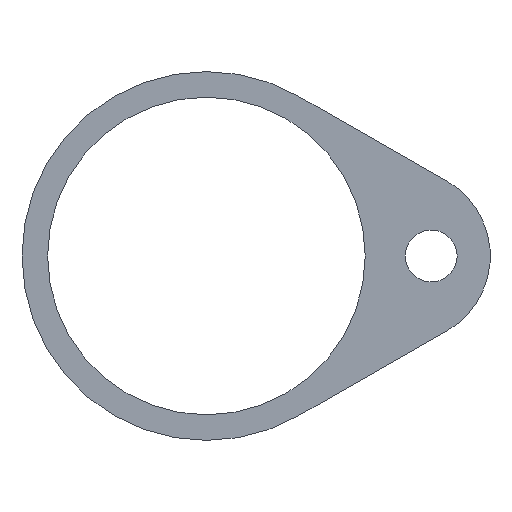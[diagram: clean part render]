
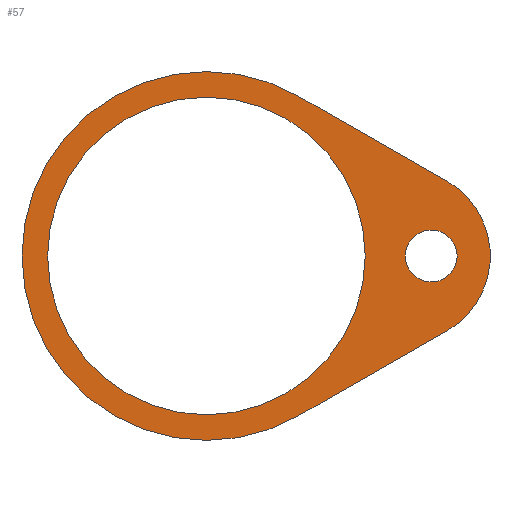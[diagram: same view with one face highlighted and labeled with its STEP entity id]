
A CAD part, front view. The second image highlights one B-rep face of the part: STEP entity #57.
In plain terms, the highlighted planar face has unit normal (0, -1, 0).
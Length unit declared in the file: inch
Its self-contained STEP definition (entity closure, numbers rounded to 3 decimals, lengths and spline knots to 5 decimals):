
#3 = CIRCLE ( 'NONE', #228, 1.44 ) ;
#28 = ORIENTED_EDGE ( 'NONE', *, *, #173, .T. ) ;
#29 = ORIENTED_EDGE ( 'NONE', *, *, #177, .T. ) ;
#57 = ADVANCED_FACE ( 'NONE', ( #138, #148, #165 ), #356, .F. ) ;
#61 = CIRCLE ( 'NONE', #229, 0.675 ) ;
#62 = CIRCLE ( 'NONE', #209, 1.44 ) ;
#68 = LINE ( 'NONE', #337, #75 ) ;
#71 = CIRCLE ( 'NONE', #227, 1.44 ) ;
#72 = VECTOR ( 'NONE', #308, 39.37008 ) ;
#73 = LINE ( 'NONE', #309, #72 ) ;
#75 = VECTOR ( 'NONE', #331, 39.37008 ) ;
#82 = EDGE_LOOP ( 'NONE', ( #104, #105 ) ) ;
#85 = EDGE_LOOP ( 'NONE', ( #28, #29 ) ) ;
#95 = EDGE_LOOP ( 'NONE', ( #109, #110, #111, #112, #113, #103 ) ) ;
#103 = ORIENTED_EDGE ( 'NONE', *, *, #187, .F. ) ;
#104 = ORIENTED_EDGE ( 'NONE', *, *, #196, .T. ) ;
#105 = ORIENTED_EDGE ( 'NONE', *, *, #206, .T. ) ;
#109 = ORIENTED_EDGE ( 'NONE', *, *, #179, .F. ) ;
#110 = ORIENTED_EDGE ( 'NONE', *, *, #190, .F. ) ;
#111 = ORIENTED_EDGE ( 'NONE', *, *, #191, .F. ) ;
#112 = ORIENTED_EDGE ( 'NONE', *, *, #180, .F. ) ;
#113 = ORIENTED_EDGE ( 'NONE', *, *, #195, .F. ) ;
#134 = CIRCLE ( 'NONE', #188, 1.24016 ) ;
#138 = FACE_BOUND ( 'NONE', #85, .T. ) ;
#148 = FACE_OUTER_BOUND ( 'NONE', #95, .T. ) ;
#152 = CIRCLE ( 'NONE', #205, 1.24016 ) ;
#165 = FACE_BOUND ( 'NONE', #82, .T. ) ;
#169 = CIRCLE ( 'NONE', #231, 0.203 ) ;
#173 = EDGE_CURVE ( 'NONE', #400, #406, #152, .T. ) ;
#177 = EDGE_CURVE ( 'NONE', #406, #400, #134, .T. ) ;
#179 = EDGE_CURVE ( 'NONE', #257, #399, #62, .T. ) ;
#180 = EDGE_CURVE ( 'NONE', #249, #256, #68, .T. ) ;
#187 = EDGE_CURVE ( 'NONE', #399, #250, #71, .T. ) ;
#188 = AXIS2_PLACEMENT_3D ( 'NONE', #338, #336, #335 ) ;
#190 = EDGE_CURVE ( 'NONE', #259, #257, #73, .T. ) ;
#191 = EDGE_CURVE ( 'NONE', #256, #259, #61, .T. ) ;
#195 = EDGE_CURVE ( 'NONE', #250, #249, #3, .T. ) ;
#196 = EDGE_CURVE ( 'NONE', #401, #246, #169, .T. ) ;
#205 = AXIS2_PLACEMENT_3D ( 'NONE', #350, #347, #346 ) ;
#206 = EDGE_CURVE ( 'NONE', #246, #401, #241, .T. ) ;
#209 = AXIS2_PLACEMENT_3D ( 'NONE', #341, #334, #333 ) ;
#221 = AXIS2_PLACEMENT_3D ( 'NONE', #353, #352, #351 ) ;
#227 = AXIS2_PLACEMENT_3D ( 'NONE', #323, #314, #313 ) ;
#228 = AXIS2_PLACEMENT_3D ( 'NONE', #297, #296, #295 ) ;
#229 = AXIS2_PLACEMENT_3D ( 'NONE', #315, #307, #306 ) ;
#231 = AXIS2_PLACEMENT_3D ( 'NONE', #300, #292, #291 ) ;
#233 = AXIS2_PLACEMENT_3D ( 'NONE', #288, #274, #273 ) ;
#241 = CIRCLE ( 'NONE', #233, 0.203 ) ;
#246 = VERTEX_POINT ( 'NONE', #272 ) ;
#248 = CARTESIAN_POINT ( 'NONE',  ( 1.87661, 0., -0.58603 ) ) ;
#249 = VERTEX_POINT ( 'NONE', #267 ) ;
#250 = VERTEX_POINT ( 'NONE', #266 ) ;
#251 = CARTESIAN_POINT ( 'NONE',  ( 0.71455, 0., -1.25021 ) ) ;
#256 = VERTEX_POINT ( 'NONE', #258 ) ;
#257 = VERTEX_POINT ( 'NONE', #251 ) ;
#258 = CARTESIAN_POINT ( 'NONE',  ( 1.87661, 0., 0.58603 ) ) ;
#259 = VERTEX_POINT ( 'NONE', #248 ) ;
#266 = CARTESIAN_POINT ( 'NONE',  ( 0., 0., 1.44 ) ) ;
#267 = CARTESIAN_POINT ( 'NONE',  ( 0.71455, 0., 1.25021 ) ) ;
#272 = CARTESIAN_POINT ( 'NONE',  ( 1.755, 0., 0.203 ) ) ;
#273 = DIRECTION ( 'NONE',  ( 0., 0., 1. ) ) ;
#274 = DIRECTION ( 'NONE',  ( 0., 1., 0. ) ) ;
#288 = CARTESIAN_POINT ( 'NONE',  ( 1.755, 0., 0. ) ) ;
#291 = DIRECTION ( 'NONE',  ( 0., 0., 1. ) ) ;
#292 = DIRECTION ( 'NONE',  ( 0., 1., 0. ) ) ;
#295 = DIRECTION ( 'NONE',  ( 0., 0., 1. ) ) ;
#296 = DIRECTION ( 'NONE',  ( 0., 1., 0. ) ) ;
#297 = CARTESIAN_POINT ( 'NONE',  ( 0., 0., 0. ) ) ;
#300 = CARTESIAN_POINT ( 'NONE',  ( 1.755, 0., 0. ) ) ;
#306 = DIRECTION ( 'NONE',  ( 0., 0., 1. ) ) ;
#307 = DIRECTION ( 'NONE',  ( 0., 1., 0. ) ) ;
#308 = DIRECTION ( 'NONE',  ( -0.868, 0., -0.496 ) ) ;
#309 = CARTESIAN_POINT ( 'NONE',  ( 0.71455, 0., -1.25021 ) ) ;
#313 = DIRECTION ( 'NONE',  ( 0., 0., 1. ) ) ;
#314 = DIRECTION ( 'NONE',  ( 0., 1., 0. ) ) ;
#315 = CARTESIAN_POINT ( 'NONE',  ( 1.54167, 0., 0. ) ) ;
#323 = CARTESIAN_POINT ( 'NONE',  ( 0., 0., 0. ) ) ;
#331 = DIRECTION ( 'NONE',  ( 0.868, 0., -0.496 ) ) ;
#333 = DIRECTION ( 'NONE',  ( 0., 0., 1. ) ) ;
#334 = DIRECTION ( 'NONE',  ( 0., 1., 0. ) ) ;
#335 = DIRECTION ( 'NONE',  ( 0., 0., 1. ) ) ;
#336 = DIRECTION ( 'NONE',  ( 0., 1., 0. ) ) ;
#337 = CARTESIAN_POINT ( 'NONE',  ( 0.71455, 0., 1.25021 ) ) ;
#338 = CARTESIAN_POINT ( 'NONE',  ( 0., 0., 0. ) ) ;
#341 = CARTESIAN_POINT ( 'NONE',  ( 0., 0., 0. ) ) ;
#346 = DIRECTION ( 'NONE',  ( 0., 0., 1. ) ) ;
#347 = DIRECTION ( 'NONE',  ( 0., 1., 0. ) ) ;
#350 = CARTESIAN_POINT ( 'NONE',  ( 0., 0., 0. ) ) ;
#351 = DIRECTION ( 'NONE',  ( 0., 0., 1. ) ) ;
#352 = DIRECTION ( 'NONE',  ( 0., 1., 0. ) ) ;
#353 = CARTESIAN_POINT ( 'NONE',  ( 0., 0., 0. ) ) ;
#356 = PLANE ( 'NONE',  #221 ) ;
#391 = CARTESIAN_POINT ( 'NONE',  ( 0., 0., -1.24016 ) ) ;
#399 = VERTEX_POINT ( 'NONE', #402 ) ;
#400 = VERTEX_POINT ( 'NONE', #391 ) ;
#401 = VERTEX_POINT ( 'NONE', #403 ) ;
#402 = CARTESIAN_POINT ( 'NONE',  ( 0., 0., -1.44 ) ) ;
#403 = CARTESIAN_POINT ( 'NONE',  ( 1.755, 0., -0.203 ) ) ;
#404 = CARTESIAN_POINT ( 'NONE',  ( 0., 0., 1.24016 ) ) ;
#406 = VERTEX_POINT ( 'NONE', #404 ) ;
